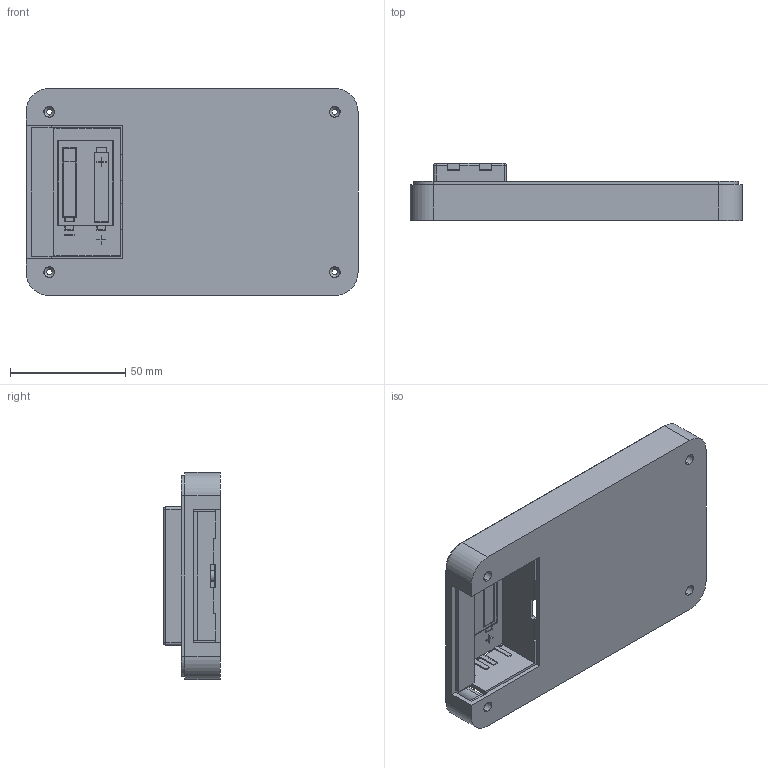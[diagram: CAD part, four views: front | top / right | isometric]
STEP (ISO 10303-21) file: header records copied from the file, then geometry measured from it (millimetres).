
FILE_DESCRIPTION (( 'STEP AP214' ), '1' );
FILE_NAME ('Cos PP80.STEP', '2018-01-16T01:55:37', ( 'aaa' ), ( '' ), 'SwSTEP 2.0', 'SolidWorks 2013', '' );
FILE_SCHEMA (( 'AUTOMOTIVE_DESIGN' ));
Length unit declared in the file: millimetre
Products named in the file (1): Cos PP80
Bounding box: 144 x 24.7 x 89.8 mm (x, y, z)
Volume: 54564.5 mm3; surface area: 47832.7 mm2
Topology: 1 solids, 1 shells, 334 faces, 914 edges, 598 vertices
Faces by surface type: plane 254, cylinder 68, cone 8, sphere 4
Entity records: 10508 total; most frequent: CARTESIAN_POINT 1843, ORIENTED_EDGE 1820, DIRECTION 1724, EDGE_CURVE 910, VECTOR 766, LINE 766, VERTEX_POINT 598, AXIS2_PLACEMENT_3D 479
